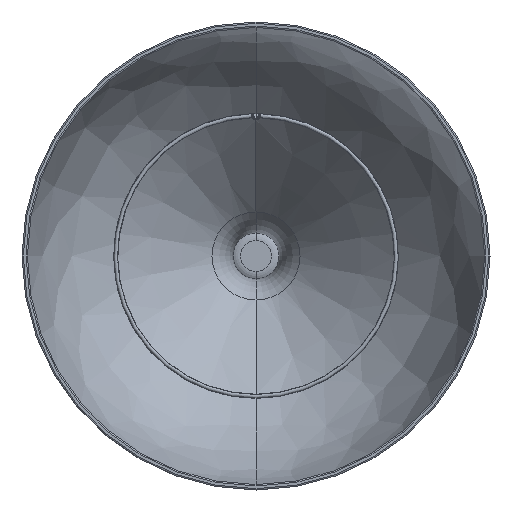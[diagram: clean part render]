
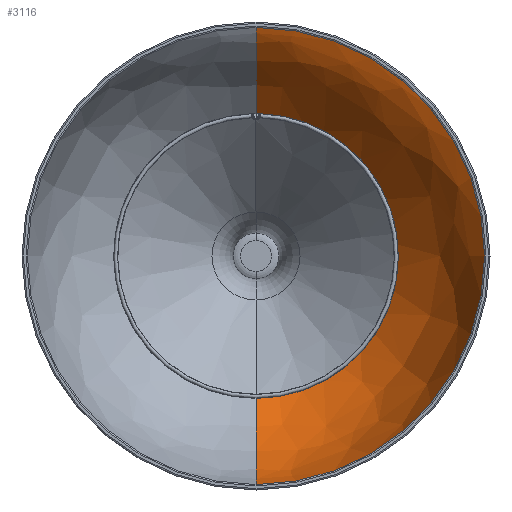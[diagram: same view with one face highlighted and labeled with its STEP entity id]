
A CAD part, front view. The second image highlights one B-rep face of the part: STEP entity #3116.
In plain terms, the highlighted free-form (B-spline) face has degree [3, 3] with [4, 4] control points.
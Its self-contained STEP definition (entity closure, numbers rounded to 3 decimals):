
#7 = VERTEX_POINT ( 'NONE', #1036 ) ;
#137 = VERTEX_POINT ( 'NONE', #2919 ) ;
#146 = ORIENTED_EDGE ( 'NONE', *, *, #1773, .F. ) ;
#152 = ORIENTED_EDGE ( 'NONE', *, *, #825, .T. ) ;
#163 = CARTESIAN_POINT ( 'NONE',  ( 0., 168.671, 344.978 ) ) ;
#279 = CARTESIAN_POINT ( 'NONE',  ( 0., 105.091, 460.928 ) ) ;
#422 = CIRCLE ( 'NONE', #1249, 105.091 ) ;
#542 = EDGE_LOOP ( 'NONE', ( #1132, #2308, #3790, #152, #146, #2248 ) ) ;
#553 = CARTESIAN_POINT ( 'NONE',  ( 337.342, -168.671, 344.978 ) ) ;
#607 = FACE_OUTER_BOUND ( 'NONE', #542, .T. ) ;
#630 = VERTEX_POINT ( 'NONE', #279 ) ;
#693 = DIRECTION ( 'NONE',  ( 1., 0., 0. ) ) ;
#738 = CARTESIAN_POINT ( 'NONE',  ( 0., -168.671, 344.978 ) ) ;
#817 = CARTESIAN_POINT ( 'NONE',  ( 0., 0., 344.978 ) ) ;
#825 = EDGE_CURVE ( 'NONE', #7, #1468, #2221, .T. ) ;
#920 = CARTESIAN_POINT ( 'NONE',  ( 0., 163.033, 390.915 ) ) ;
#1006 = CARTESIAN_POINT ( 'NONE',  ( 0., 0., 344.978 ) ) ;
#1036 = CARTESIAN_POINT ( 'NONE',  ( 168.671, 0., 344.978 ) ) ;
#1048 = VERTEX_POINT ( 'NONE', #3265 ) ;
#1089 = CARTESIAN_POINT ( 'NONE',  ( 0., 168.671, 344.978 ) ) ;
#1132 = ORIENTED_EDGE ( 'NONE', *, *, #2041, .F. ) ;
#1151 = CARTESIAN_POINT ( 'NONE',  ( 0., -105.091, 460.928 ) ) ;
#1164 = CARTESIAN_POINT ( 'NONE',  ( 210.182, 105.091, 460.928 ) ) ;
#1204 = CARTESIAN_POINT ( 'NONE',  ( 281.56, -140.78, 431.486 ) ) ;
#1222 = CARTESIAN_POINT ( 'NONE',  ( 210.182, -105.091, 460.928 ) ) ;
#1241 = CARTESIAN_POINT ( 'NONE',  ( 0., -168.671, 344.978 ) ) ;
#1249 = AXIS2_PLACEMENT_3D ( 'NONE', #1690, #3804, #3785 ) ;
#1266 = DIRECTION ( 'NONE',  ( 0., 0., -1. ) ) ;
#1276 = AXIS2_PLACEMENT_3D ( 'NONE', #817, #3486, #2860 ) ;
#1350 = AXIS2_PLACEMENT_3D ( 'NONE', #1006, #1266, #693 ) ;
#1426 = EDGE_CURVE ( 'NONE', #3907, #7, #2980, .T. ) ;
#1467 = CARTESIAN_POINT ( 'NONE',  ( 0., 140.78, 431.486 ) ) ;
#1468 = VERTEX_POINT ( 'NONE', #738 ) ;
#1690 = CARTESIAN_POINT ( 'NONE',  ( 0., 0., 460.928 ) ) ;
#1713 = CARTESIAN_POINT ( 'NONE',  ( 0., 163.033, 390.915 ) ) ;
#1736 = CARTESIAN_POINT ( 'NONE',  ( 0., -163.033, 390.915 ) ) ;
#1767 = CARTESIAN_POINT ( 'NONE',  ( 0., 0., 460.928 ) ) ;
#1773 = EDGE_CURVE ( 'NONE', #1048, #1468, #2643, .T. ) ;
#1989 =( BOUNDED_CURVE ( )  B_SPLINE_CURVE ( 3, ( #2017, #3513, #1713, #163 ),
 .UNSPECIFIED., .F., .T. ) 
 B_SPLINE_CURVE_WITH_KNOTS ( ( 4, 4 ),
 ( 0., 0.993 ),
 .UNSPECIFIED. ) 
 CURVE ( )  GEOMETRIC_REPRESENTATION_ITEM ( )  RATIONAL_B_SPLINE_CURVE ( ( 1., 0.952, 0.952, 0.999 ) ) 
 REPRESENTATION_ITEM ( '' )  );
#2017 = CARTESIAN_POINT ( 'NONE',  ( 0., 105.091, 460.928 ) ) ;
#2041 = EDGE_CURVE ( 'NONE', #630, #137, #422, .T. ) ;
#2056 = DIRECTION ( 'NONE',  ( 0., -1., 0. ) ) ;
#2074 = CARTESIAN_POINT ( 'NONE',  ( 0., 105.091, 460.928 ) ) ;
#2221 = CIRCLE ( 'NONE', #1350, 168.671 ) ;
#2248 = ORIENTED_EDGE ( 'NONE', *, *, #3159, .F. ) ;
#2308 = ORIENTED_EDGE ( 'NONE', *, *, #2864, .T. ) ;
#2348 = CARTESIAN_POINT ( 'NONE',  ( 281.56, 140.78, 431.486 ) ) ;
#2409 = CARTESIAN_POINT ( 'NONE',  ( 0., 168.671, 344.978 ) ) ;
#2643 =( BOUNDED_CURVE ( )  B_SPLINE_CURVE ( 3, ( #1151, #3647, #1736, #1241 ),
 .UNSPECIFIED., .F., .T. ) 
 B_SPLINE_CURVE_WITH_KNOTS ( ( 4, 4 ),
 ( 0., 0.993 ),
 .UNSPECIFIED. ) 
 CURVE ( )  GEOMETRIC_REPRESENTATION_ITEM ( )  RATIONAL_B_SPLINE_CURVE ( ( 1., 0.952, 0.952, 0.999 ) ) 
 REPRESENTATION_ITEM ( '' )  );
#2664 = CARTESIAN_POINT ( 'NONE',  ( 0., -163.033, 390.915 ) ) ;
#2681 = CARTESIAN_POINT ( 'NONE',  ( 337.342, 168.671, 344.978 ) ) ;
#2860 = DIRECTION ( 'NONE',  ( 1., 0., 0. ) ) ;
#2864 = EDGE_CURVE ( 'NONE', #630, #3907, #1989, .T. ) ;
#2919 = CARTESIAN_POINT ( 'NONE',  ( 50.383, -92.226, 460.928 ) ) ;
#2949 = CIRCLE ( 'NONE', #3466, 105.091 ) ;
#2980 = CIRCLE ( 'NONE', #1276, 168.671 ) ;
#3020 = CARTESIAN_POINT ( 'NONE',  ( 0., -140.78, 431.486 ) ) ;
#3073 =( BOUNDED_SURFACE ( )  B_SPLINE_SURFACE ( 3, 3, ( 
 ( #3646, #1222, #1164, #2074 ),
 ( #3020, #1204, #2348, #1467 ),
 ( #2664, #3625, #3344, #920 ),
 ( #3588, #553, #2681, #2409 ) ),
 .UNSPECIFIED., .F., .F., .T. ) 
 B_SPLINE_SURFACE_WITH_KNOTS ( ( 4, 4 ),
 ( 4, 4 ),
 ( 0., 0.993 ),
 ( 0., 1. ),
 .UNSPECIFIED. ) 
 GEOMETRIC_REPRESENTATION_ITEM ( )  RATIONAL_B_SPLINE_SURFACE ( (
 ( 1., 0.333, 0.333, 1.),
 ( 0.952, 0.317, 0.317, 0.952),
 ( 0.952, 0.317, 0.317, 0.952),
 ( 0.999, 0.333, 0.333, 0.999) ) ) 
 REPRESENTATION_ITEM ( '' )  SURFACE ( )  );
#3116 = ADVANCED_FACE ( 'NONE', ( #607 ), #3073, .F. ) ;
#3159 = EDGE_CURVE ( 'NONE', #137, #1048, #2949, .T. ) ;
#3265 = CARTESIAN_POINT ( 'NONE',  ( 0., -105.091, 460.928 ) ) ;
#3344 = CARTESIAN_POINT ( 'NONE',  ( 326.067, 163.033, 390.915 ) ) ;
#3466 = AXIS2_PLACEMENT_3D ( 'NONE', #1767, #3906, #2056 ) ;
#3486 = DIRECTION ( 'NONE',  ( 0., 0., -1. ) ) ;
#3513 = CARTESIAN_POINT ( 'NONE',  ( 0., 140.78, 431.486 ) ) ;
#3588 = CARTESIAN_POINT ( 'NONE',  ( 0., -168.671, 344.978 ) ) ;
#3625 = CARTESIAN_POINT ( 'NONE',  ( 326.067, -163.033, 390.915 ) ) ;
#3646 = CARTESIAN_POINT ( 'NONE',  ( 0., -105.091, 460.928 ) ) ;
#3647 = CARTESIAN_POINT ( 'NONE',  ( 0., -140.78, 431.486 ) ) ;
#3785 = DIRECTION ( 'NONE',  ( 0., -1., 0. ) ) ;
#3790 = ORIENTED_EDGE ( 'NONE', *, *, #1426, .T. ) ;
#3804 = DIRECTION ( 'NONE',  ( 0., 0., -1. ) ) ;
#3906 = DIRECTION ( 'NONE',  ( 0., 0., -1. ) ) ;
#3907 = VERTEX_POINT ( 'NONE', #1089 ) ;
